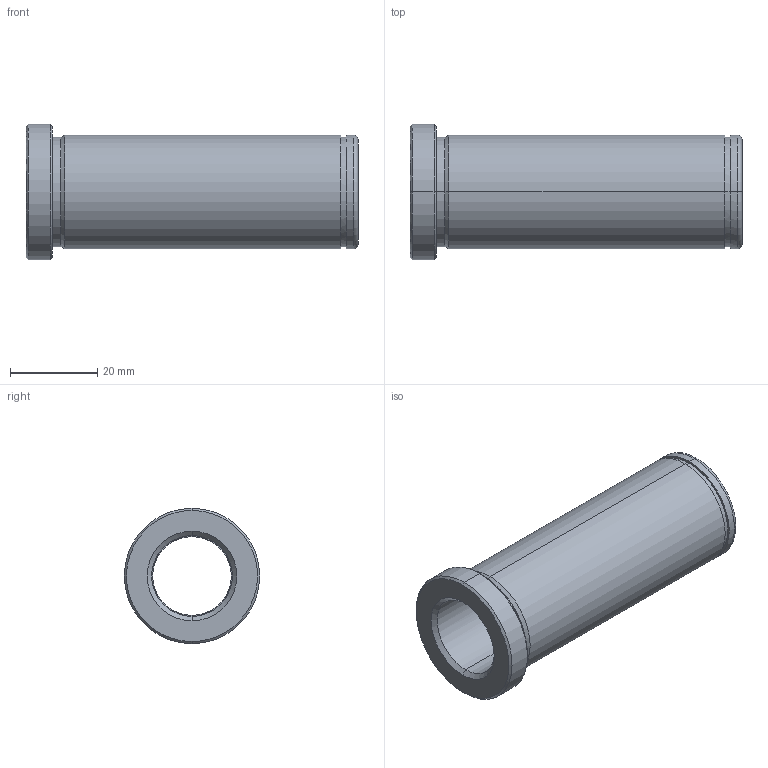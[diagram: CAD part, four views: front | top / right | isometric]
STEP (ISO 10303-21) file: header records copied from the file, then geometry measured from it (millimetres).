
FILE_DESCRIPTION(('CATIA V5 STEP Exchange'),'2;1');
FILE_NAME('C:\Users\Utente\Desktop\IO LAVORO\3D X SITO CF\X SITO\PLASTICA\553\553-18X76.stp','2021-05-23T17:27:16+00:00',('none'),('none'),'CATIA Version 5 Release 20 GA (IN-10)','CATIA V5 STEP AP203','none');
FILE_SCHEMA(('CONFIG_CONTROL_DESIGN'));
Length unit declared in the file: millimetre
Products named in the file (1): 553-18X76
Bounding box: 76 x 31 x 31 mm (x, y, z)
Volume: 21817.9 mm3; surface area: 11589.6 mm2
Topology: 1 solids, 1 shells, 32 faces, 102 edges, 76 vertices
Faces by surface type: cylinder 14, cone 8, plane 6, torus 4
Entity records: 1334 total; most frequent: CARTESIAN_POINT 389, ORIENTED_EDGE 204, DIRECTION 152, EDGE_CURVE 102, AXIS2_PLACEMENT_3D 99, VERTEX_POINT 76, CIRCLE 66, EDGE_LOOP 38
